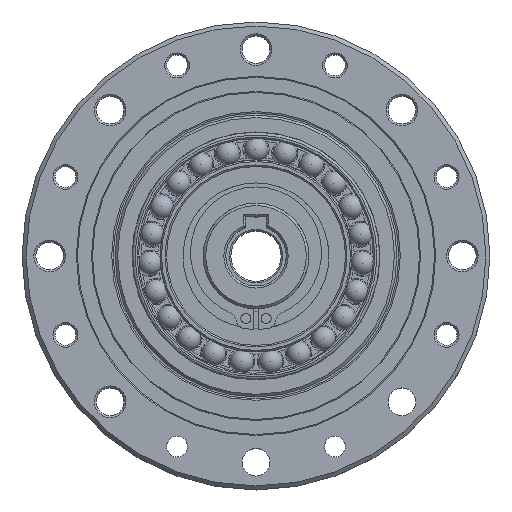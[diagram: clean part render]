
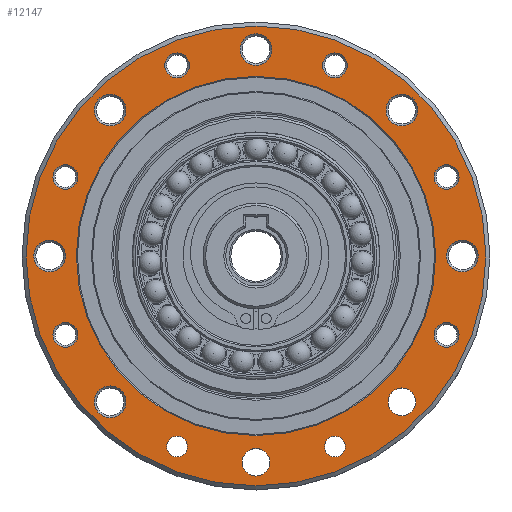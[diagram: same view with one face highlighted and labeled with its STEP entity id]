
A CAD part, top view. The second image highlights one B-rep face of the part: STEP entity #12147.
In plain terms, the highlighted planar face has unit normal (0, 0, 1).
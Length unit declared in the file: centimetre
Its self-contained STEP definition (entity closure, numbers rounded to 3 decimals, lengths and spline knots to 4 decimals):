
#2618=FACE_BOUND('',#3353,.T.);
#2619=FACE_BOUND('',#3354,.T.);
#2620=FACE_BOUND('',#3355,.T.);
#2621=FACE_BOUND('',#3356,.T.);
#2622=FACE_BOUND('',#3357,.T.);
#2623=FACE_BOUND('',#3358,.T.);
#2624=FACE_BOUND('',#3359,.T.);
#2625=FACE_BOUND('',#3360,.T.);
#2626=FACE_BOUND('',#3361,.T.);
#2627=FACE_BOUND('',#3362,.T.);
#2628=FACE_BOUND('',#3363,.T.);
#2629=FACE_BOUND('',#3364,.T.);
#2630=FACE_BOUND('',#3365,.T.);
#2631=FACE_BOUND('',#3366,.T.);
#2632=FACE_BOUND('',#3367,.T.);
#2633=FACE_BOUND('',#3368,.T.);
#2634=FACE_BOUND('',#3369,.T.);
#2635=FACE_BOUND('',#3370,.T.);
#3353=EDGE_LOOP('',(#9013));
#3354=EDGE_LOOP('',(#9014));
#3355=EDGE_LOOP('',(#9015));
#3356=EDGE_LOOP('',(#9016));
#3357=EDGE_LOOP('',(#9017));
#3358=EDGE_LOOP('',(#9018));
#3359=EDGE_LOOP('',(#9019));
#3360=EDGE_LOOP('',(#9020));
#3361=EDGE_LOOP('',(#9021));
#3362=EDGE_LOOP('',(#9022));
#3363=EDGE_LOOP('',(#9023));
#3364=EDGE_LOOP('',(#9024));
#3365=EDGE_LOOP('',(#9025));
#3366=EDGE_LOOP('',(#9026));
#3367=EDGE_LOOP('',(#9027));
#3368=EDGE_LOOP('',(#9028));
#3369=EDGE_LOOP('',(#9029));
#3370=EDGE_LOOP('',(#9030));
#4707=CIRCLE('',#13469,0.275);
#4708=CIRCLE('',#13470,0.275);
#4709=CIRCLE('',#13471,0.2067);
#4710=CIRCLE('',#13472,0.2067);
#4711=CIRCLE('',#13473,4.57);
#4712=CIRCLE('',#13474,3.57);
#4713=CIRCLE('',#13475,0.315);
#4714=CIRCLE('',#13476,0.2467);
#4715=CIRCLE('',#13477,0.315);
#4716=CIRCLE('',#13478,0.2467);
#4717=CIRCLE('',#13479,0.315);
#4718=CIRCLE('',#13480,0.2467);
#4719=CIRCLE('',#13481,0.315);
#4720=CIRCLE('',#13482,0.2467);
#4721=CIRCLE('',#13483,0.315);
#4722=CIRCLE('',#13484,0.2467);
#4723=CIRCLE('',#13485,0.315);
#4724=CIRCLE('',#13486,0.2467);
#5675=VERTEX_POINT('',#20136);
#5676=VERTEX_POINT('',#20138);
#5677=VERTEX_POINT('',#20140);
#5678=VERTEX_POINT('',#20142);
#5679=VERTEX_POINT('',#20144);
#5680=VERTEX_POINT('',#20146);
#5681=VERTEX_POINT('',#20148);
#5682=VERTEX_POINT('',#20150);
#5683=VERTEX_POINT('',#20152);
#5684=VERTEX_POINT('',#20154);
#5685=VERTEX_POINT('',#20156);
#5686=VERTEX_POINT('',#20158);
#5687=VERTEX_POINT('',#20160);
#5688=VERTEX_POINT('',#20162);
#5689=VERTEX_POINT('',#20164);
#5690=VERTEX_POINT('',#20166);
#5691=VERTEX_POINT('',#20168);
#5692=VERTEX_POINT('',#20170);
#6993=EDGE_CURVE('',#5675,#5675,#4707,.T.);
#6994=EDGE_CURVE('',#5676,#5676,#4708,.T.);
#6995=EDGE_CURVE('',#5677,#5677,#4709,.T.);
#6996=EDGE_CURVE('',#5678,#5678,#4710,.T.);
#6997=EDGE_CURVE('',#5679,#5679,#4711,.T.);
#6998=EDGE_CURVE('',#5680,#5680,#4712,.T.);
#6999=EDGE_CURVE('',#5681,#5681,#4713,.T.);
#7000=EDGE_CURVE('',#5682,#5682,#4714,.T.);
#7001=EDGE_CURVE('',#5683,#5683,#4715,.T.);
#7002=EDGE_CURVE('',#5684,#5684,#4716,.T.);
#7003=EDGE_CURVE('',#5685,#5685,#4717,.T.);
#7004=EDGE_CURVE('',#5686,#5686,#4718,.T.);
#7005=EDGE_CURVE('',#5687,#5687,#4719,.T.);
#7006=EDGE_CURVE('',#5688,#5688,#4720,.T.);
#7007=EDGE_CURVE('',#5689,#5689,#4721,.T.);
#7008=EDGE_CURVE('',#5690,#5690,#4722,.T.);
#7009=EDGE_CURVE('',#5691,#5691,#4723,.T.);
#7010=EDGE_CURVE('',#5692,#5692,#4724,.T.);
#9013=ORIENTED_EDGE('',*,*,#6993,.F.);
#9014=ORIENTED_EDGE('',*,*,#6994,.F.);
#9015=ORIENTED_EDGE('',*,*,#6995,.F.);
#9016=ORIENTED_EDGE('',*,*,#6996,.F.);
#9017=ORIENTED_EDGE('',*,*,#6997,.F.);
#9018=ORIENTED_EDGE('',*,*,#6998,.F.);
#9019=ORIENTED_EDGE('',*,*,#6999,.F.);
#9020=ORIENTED_EDGE('',*,*,#7000,.F.);
#9021=ORIENTED_EDGE('',*,*,#7001,.F.);
#9022=ORIENTED_EDGE('',*,*,#7002,.F.);
#9023=ORIENTED_EDGE('',*,*,#7003,.F.);
#9024=ORIENTED_EDGE('',*,*,#7004,.F.);
#9025=ORIENTED_EDGE('',*,*,#7005,.F.);
#9026=ORIENTED_EDGE('',*,*,#7006,.F.);
#9027=ORIENTED_EDGE('',*,*,#7007,.F.);
#9028=ORIENTED_EDGE('',*,*,#7008,.F.);
#9029=ORIENTED_EDGE('',*,*,#7009,.F.);
#9030=ORIENTED_EDGE('',*,*,#7010,.F.);
#11090=PLANE('',#13468);
#12147=ADVANCED_FACE('',(#2618,#2619,#2620,#2621,#2622,#2623,#2624,#2625,
#2626,#2627,#2628,#2629,#2630,#2631,#2632,#2633,#2634,#2635),#11090,.T.);
#13468=AXIS2_PLACEMENT_3D('',#20135,#16175,#16176);
#13469=AXIS2_PLACEMENT_3D('',#20137,#16177,#16178);
#13470=AXIS2_PLACEMENT_3D('',#20139,#16179,#16180);
#13471=AXIS2_PLACEMENT_3D('',#20141,#16181,#16182);
#13472=AXIS2_PLACEMENT_3D('',#20143,#16183,#16184);
#13473=AXIS2_PLACEMENT_3D('',#20145,#16185,#16186);
#13474=AXIS2_PLACEMENT_3D('',#20147,#16187,#16188);
#13475=AXIS2_PLACEMENT_3D('',#20149,#16189,#16190);
#13476=AXIS2_PLACEMENT_3D('',#20151,#16191,#16192);
#13477=AXIS2_PLACEMENT_3D('',#20153,#16193,#16194);
#13478=AXIS2_PLACEMENT_3D('',#20155,#16195,#16196);
#13479=AXIS2_PLACEMENT_3D('',#20157,#16197,#16198);
#13480=AXIS2_PLACEMENT_3D('',#20159,#16199,#16200);
#13481=AXIS2_PLACEMENT_3D('',#20161,#16201,#16202);
#13482=AXIS2_PLACEMENT_3D('',#20163,#16203,#16204);
#13483=AXIS2_PLACEMENT_3D('',#20165,#16205,#16206);
#13484=AXIS2_PLACEMENT_3D('',#20167,#16207,#16208);
#13485=AXIS2_PLACEMENT_3D('',#20169,#16209,#16210);
#13486=AXIS2_PLACEMENT_3D('',#20171,#16211,#16212);
#16175=DIRECTION('center_axis',(0.,0.,
1.));
#16176=DIRECTION('ref_axis',(0.,-1.,0.));
#16177=DIRECTION('center_axis',(0.,0.,
1.));
#16178=DIRECTION('ref_axis',(0.,-1.,0.));
#16179=DIRECTION('center_axis',(0.,0.,
1.));
#16180=DIRECTION('ref_axis',(0.,-1.,0.));
#16181=DIRECTION('center_axis',(0.,0.,
1.));
#16182=DIRECTION('ref_axis',(0.,-1.,0.));
#16183=DIRECTION('center_axis',(0.,0.,
1.));
#16184=DIRECTION('ref_axis',(0.,-1.,0.));
#16185=DIRECTION('center_axis',(0.,0.,
-1.));
#16186=DIRECTION('ref_axis',(-1.,0.,0.));
#16187=DIRECTION('center_axis',(0.,0.,
1.));
#16188=DIRECTION('ref_axis',(-1.,0.,0.));
#16189=DIRECTION('center_axis',(0.,0.,
1.));
#16190=DIRECTION('ref_axis',(0.,1.,0.));
#16191=DIRECTION('center_axis',(0.,0.,
1.));
#16192=DIRECTION('ref_axis',(0.,1.,0.));
#16193=DIRECTION('center_axis',(0.,0.,
1.));
#16194=DIRECTION('ref_axis',(0.,1.,0.));
#16195=DIRECTION('center_axis',(0.,0.,
1.));
#16196=DIRECTION('ref_axis',(0.,1.,0.));
#16197=DIRECTION('center_axis',(0.,0.,
1.));
#16198=DIRECTION('ref_axis',(0.,1.,0.));
#16199=DIRECTION('center_axis',(0.,0.,
1.));
#16200=DIRECTION('ref_axis',(0.,1.,0.));
#16201=DIRECTION('center_axis',(0.,0.,
1.));
#16202=DIRECTION('ref_axis',(0.,1.,0.));
#16203=DIRECTION('center_axis',(0.,0.,
1.));
#16204=DIRECTION('ref_axis',(0.,1.,0.));
#16205=DIRECTION('center_axis',(0.,0.,
1.));
#16206=DIRECTION('ref_axis',(0.,1.,0.));
#16207=DIRECTION('center_axis',(0.,0.,
1.));
#16208=DIRECTION('ref_axis',(0.,1.,0.));
#16209=DIRECTION('center_axis',(0.,0.,
1.));
#16210=DIRECTION('ref_axis',(0.,1.,0.));
#16211=DIRECTION('center_axis',(0.,0.,
1.));
#16212=DIRECTION('ref_axis',(0.,1.,0.));
#20135=CARTESIAN_POINT('Origin',(-6.9107,3.5703,0.));
#20136=CARTESIAN_POINT('',(-4.0116,0.9461,0.));
#20137=CARTESIAN_POINT('Origin',(-4.0116,0.6711,0.));
#20138=CARTESIAN_POINT('',(-6.9107,-0.2547,0.));
#20139=CARTESIAN_POINT('Origin',(-6.9107,-0.5297,0.));
#20140=CARTESIAN_POINT('',(-5.3417,-0.011,0.));
#20141=CARTESIAN_POINT('Origin',(-5.3417,-0.2177,0.));
#20142=CARTESIAN_POINT('',(-8.4797,-0.011,0.));
#20143=CARTESIAN_POINT('Origin',(-8.4797,-0.2177,0.));
#20144=CARTESIAN_POINT('',(-2.3407,3.5703,0.));
#20145=CARTESIAN_POINT('Origin',(-6.9107,3.5703,0.));
#20146=CARTESIAN_POINT('',(-3.3407,3.5703,0.));
#20147=CARTESIAN_POINT('Origin',(-6.9107,3.5703,0.));
#20148=CARTESIAN_POINT('',(-2.8107,3.2553,0.));
#20149=CARTESIAN_POINT('Origin',(-2.8107,3.5703,0.));
#20150=CARTESIAN_POINT('',(-3.1228,1.7545,0.));
#20151=CARTESIAN_POINT('Origin',(-3.1228,2.0012,0.));
#20152=CARTESIAN_POINT('',(-9.8099,0.3561,0.));
#20153=CARTESIAN_POINT('Origin',(-9.8099,0.6711,0.));
#20154=CARTESIAN_POINT('',(-10.6986,1.7545,0.));
#20155=CARTESIAN_POINT('Origin',(-10.6986,2.0012,0.));
#20156=CARTESIAN_POINT('',(-11.0107,3.2553,0.));
#20157=CARTESIAN_POINT('Origin',(-11.0107,3.5703,0.));
#20158=CARTESIAN_POINT('',(-10.6986,4.8926,0.));
#20159=CARTESIAN_POINT('Origin',(-10.6986,5.1393,0.));
#20160=CARTESIAN_POINT('',(-9.8099,6.1544,0.));
#20161=CARTESIAN_POINT('Origin',(-9.8099,6.4694,0.));
#20162=CARTESIAN_POINT('',(-8.4797,7.1115,0.));
#20163=CARTESIAN_POINT('Origin',(-8.4797,7.3582,0.));
#20164=CARTESIAN_POINT('',(-6.9107,7.3553,0.));
#20165=CARTESIAN_POINT('Origin',(-6.9107,7.6703,0.));
#20166=CARTESIAN_POINT('',(-5.3417,7.1115,0.));
#20167=CARTESIAN_POINT('Origin',(-5.3417,7.3582,0.));
#20168=CARTESIAN_POINT('',(-4.0116,6.1544,0.));
#20169=CARTESIAN_POINT('Origin',(-4.0116,6.4694,0.));
#20170=CARTESIAN_POINT('',(-3.1228,4.8926,0.));
#20171=CARTESIAN_POINT('Origin',(-3.1228,5.1393,0.));
